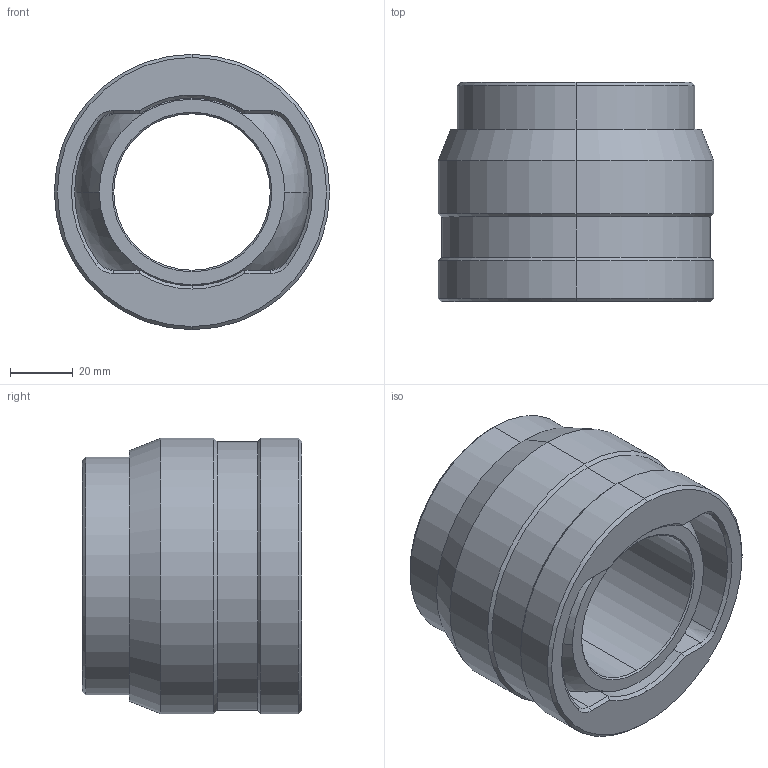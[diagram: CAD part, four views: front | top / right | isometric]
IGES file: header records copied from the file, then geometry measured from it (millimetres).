
Start section: 3D InterOp IGES (Version 20 0 1), Spatial Corp. Copyright (c) 1999-2007.
Global section: file name: 10.11.05.igs; native system: Spatial Corp.; preprocessor: 3D InterOp GENERIC/IGES 3.0; author: Noname; organization: Noname; date: 20111110.163952; units: metre
Bounding box: 88 x 70 x 88 mm (x, y, z)
Surface area: 58276.2 mm2 (no closed solid volume)
Topology: 0 solids, 0 shells, 74 faces, 330 edges, 330 vertices
Faces by surface type: revolution 60, extrusion 14
